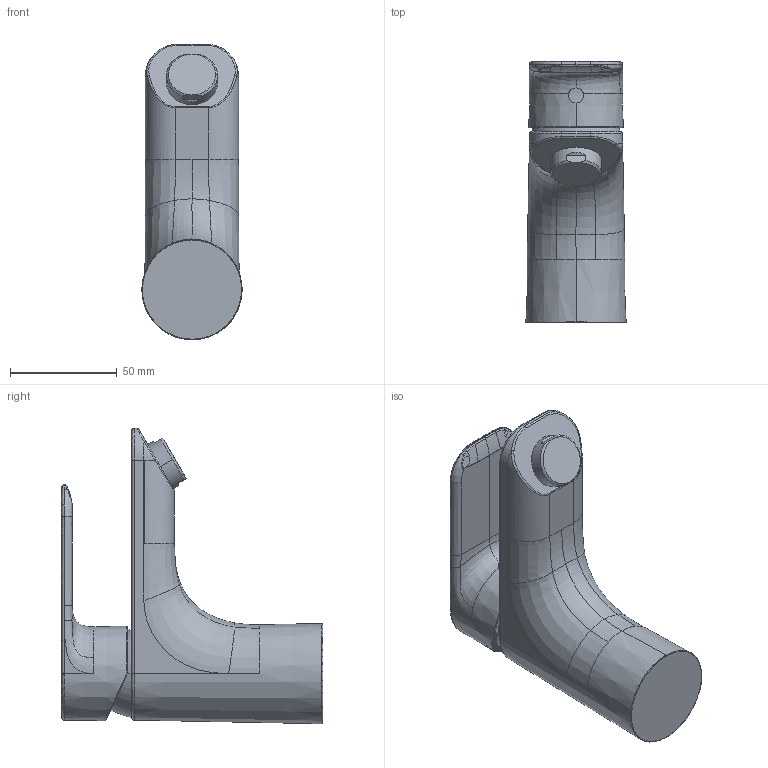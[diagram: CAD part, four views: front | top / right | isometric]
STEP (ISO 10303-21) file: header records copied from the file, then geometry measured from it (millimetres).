
FILE_DESCRIPTION (( 'STEP AP203' ), '1' );
FILE_NAME ('1610FN(2025).STEP', '2024-12-03T08:19:53', ( '' ), ( '' ), 'SwSTEP 2.0', 'SolidWorks 2024', '' );
FILE_SCHEMA (( 'CONFIG_CONTROL_DESIGN' ));
Length unit declared in the file: millimetre
Products named in the file (1): 1610FN(2025)
Bounding box: 46.99 x 122.44 x 138.49 mm (x, y, z)
Volume: 288669.6 mm3; surface area: 37655.8 mm2
Topology: 1 solids, 1 shells, 154 faces, 380 edges, 230 vertices
Faces by surface type: bspline 113, plane 17, cylinder 15, cone 7, torus 2
Entity records: 12646 total; most frequent: CARTESIAN_POINT 9858, ORIENTED_EDGE 760, EDGE_CURVE 380, DIRECTION 300, VERTEX_POINT 230, B_SPLINE_CURVE_WITH_KNOTS 179, EDGE_LOOP 156, FACE_OUTER_BOUND 154
